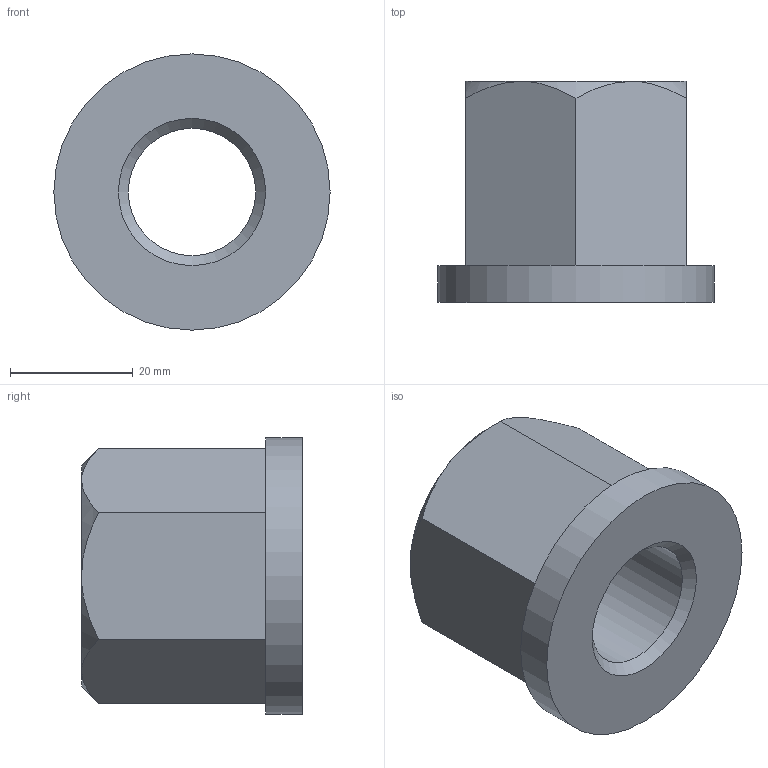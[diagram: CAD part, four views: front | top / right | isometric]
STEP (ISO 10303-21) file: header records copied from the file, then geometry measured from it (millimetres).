
FILE_DESCRIPTION( ( 'STEP AP203' ), '1' );
FILE_NAME( 'C:/Temp/Ganter_Step_05_03_2020/data/3_2/din6331/Hexagon nut DIN 6331-M24.stp', '2020-03-13T05:16:17', ( 'License CC BY-ND 4.0' ), ( 'CADENAS' ), ' ', 'PARTsolutions', ' ' );
FILE_SCHEMA( ( 'CONFIG_CONTROL_DESIGN' ) );
Length unit declared in the file: millimetre
Products named in the file (1): _Hexagon nut DIN 6331-M24
Bounding box: 45 x 36 x 45 mm (x, y, z)
Volume: 30768.8 mm3; surface area: 9247.9 mm2
Topology: 1 solids, 1 shells, 19 faces, 41 edges, 25 vertices
Faces by surface type: plane 9, cone 8, cylinder 2
Full cylindrical faces by diameter (mm): 20.752 x1, 45 x1
Entity records: 598 total; most frequent: CARTESIAN_POINT 172, DIRECTION 76, ORIENTED_EDGE 72, EDGE_CURVE 36, AXIS2_PLACEMENT_3D 32, EDGE_LOOP 26, VERTEX_POINT 24, FACE_OUTER_BOUND 21
